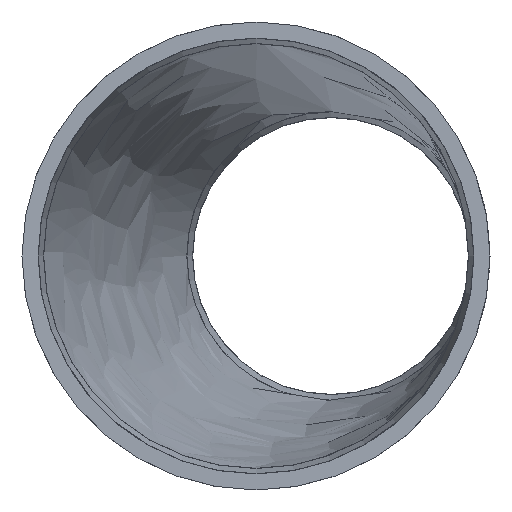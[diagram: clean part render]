
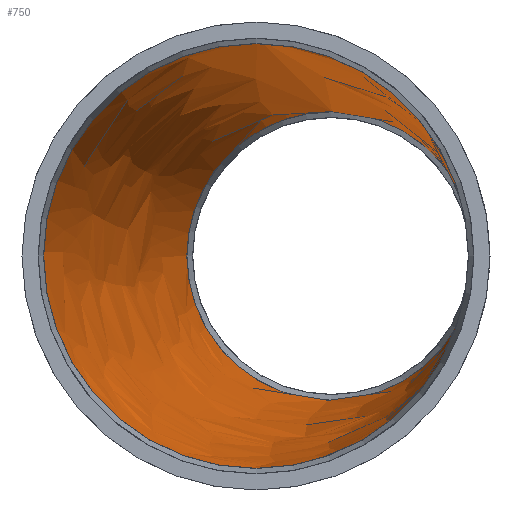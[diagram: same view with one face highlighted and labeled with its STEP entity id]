
A CAD part, left-side view. The second image highlights one B-rep face of the part: STEP entity #750.
In plain terms, the highlighted free-form (B-spline) face has degree [1, 2] with [2, 9] control points.
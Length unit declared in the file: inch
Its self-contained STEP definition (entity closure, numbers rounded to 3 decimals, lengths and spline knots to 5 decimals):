
#57=B_SPLINE_CURVE_WITH_KNOTS('',1,(#1385,#1386),.UNSPECIFIED.,.F.,.F.,
(2,2),(0.0005,4.30957),.UNSPECIFIED.);
#59=(
BOUNDED_SURFACE()
B_SPLINE_SURFACE(1,2,((#1367,#1368,#1369,#1370,#1371,#1372,#1373,#1374,
#1375),(#1376,#1377,#1378,#1379,#1380,#1381,#1382,#1383,#1384)),
 .UNSPECIFIED.,.F.,.T.,.F.)
B_SPLINE_SURFACE_WITH_KNOTS((2,2),(3,2,2,2,3),(-0.08352,4.36268),
(-3.14159,-1.5708,0.,1.5708,3.14159),
 .UNSPECIFIED.)
GEOMETRIC_REPRESENTATION_ITEM()
RATIONAL_B_SPLINE_SURFACE(((1.,0.707,1.,0.707,1.,
0.707,1.,0.707,1.),(1.,0.707,1.,0.707,
1.,0.707,1.,0.707,1.)))
REPRESENTATION_ITEM('')
SURFACE()
);
#127=FACE_OUTER_BOUND('',#159,.T.);
#159=EDGE_LOOP('',(#612,#613,#614,#615,#616,#617,#618,#619,#620,#621));
#209=CIRCLE('',#823,1.63);
#210=CIRCLE('',#824,1.63);
#211=CIRCLE('',#825,1.63);
#212=CIRCLE('',#826,1.63);
#223=CIRCLE('',#840,1.08);
#224=CIRCLE('',#841,1.08);
#225=CIRCLE('',#842,1.08);
#226=CIRCLE('',#843,1.08);
#298=VERTEX_POINT('',#1280);
#299=VERTEX_POINT('',#1281);
#300=VERTEX_POINT('',#1283);
#301=VERTEX_POINT('',#1285);
#311=VERTEX_POINT('',#1312);
#312=VERTEX_POINT('',#1313);
#313=VERTEX_POINT('',#1315);
#314=VERTEX_POINT('',#1317);
#391=EDGE_CURVE('',#298,#299,#209,.T.);
#392=EDGE_CURVE('',#299,#300,#210,.T.);
#393=EDGE_CURVE('',#300,#301,#211,.T.);
#395=EDGE_CURVE('',#301,#298,#212,.T.);
#407=EDGE_CURVE('',#311,#312,#223,.T.);
#408=EDGE_CURVE('',#312,#313,#224,.T.);
#409=EDGE_CURVE('',#313,#314,#225,.T.);
#411=EDGE_CURVE('',#314,#311,#226,.T.);
#435=EDGE_CURVE('',#299,#313,#57,.T.);
#612=ORIENTED_EDGE('',*,*,#391,.F.);
#613=ORIENTED_EDGE('',*,*,#395,.F.);
#614=ORIENTED_EDGE('',*,*,#393,.F.);
#615=ORIENTED_EDGE('',*,*,#392,.F.);
#616=ORIENTED_EDGE('',*,*,#435,.T.);
#617=ORIENTED_EDGE('',*,*,#408,.F.);
#618=ORIENTED_EDGE('',*,*,#407,.F.);
#619=ORIENTED_EDGE('',*,*,#411,.F.);
#620=ORIENTED_EDGE('',*,*,#409,.F.);
#621=ORIENTED_EDGE('',*,*,#435,.F.);
#750=ADVANCED_FACE('',(#127),#59,.T.);
#823=AXIS2_PLACEMENT_3D('',#1282,#1004,#1005);
#824=AXIS2_PLACEMENT_3D('',#1284,#1006,#1007);
#825=AXIS2_PLACEMENT_3D('',#1286,#1008,#1009);
#826=AXIS2_PLACEMENT_3D('',#1288,#1011,#1012);
#840=AXIS2_PLACEMENT_3D('',#1314,#1040,#1041);
#841=AXIS2_PLACEMENT_3D('',#1316,#1042,#1043);
#842=AXIS2_PLACEMENT_3D('',#1318,#1044,#1045);
#843=AXIS2_PLACEMENT_3D('',#1320,#1047,#1048);
#1004=DIRECTION('center_axis',(1.,0.,0.));
#1005=DIRECTION('ref_axis',(0.,1.,0.));
#1006=DIRECTION('center_axis',(1.,0.,0.));
#1007=DIRECTION('ref_axis',(0.,1.,0.));
#1008=DIRECTION('center_axis',(1.,0.,0.));
#1009=DIRECTION('ref_axis',(0.,1.,0.));
#1011=DIRECTION('center_axis',(1.,0.,0.));
#1012=DIRECTION('ref_axis',(0.,1.,0.));
#1040=DIRECTION('center_axis',(-1.,0.,0.));
#1041=DIRECTION('ref_axis',(0.,-1.,0.));
#1042=DIRECTION('center_axis',(-1.,0.,0.));
#1043=DIRECTION('ref_axis',(0.,-1.,0.));
#1044=DIRECTION('center_axis',(-1.,0.,0.));
#1045=DIRECTION('ref_axis',(0.,-1.,0.));
#1047=DIRECTION('center_axis',(-1.,0.,0.));
#1048=DIRECTION('ref_axis',(0.,-1.,0.));
#1280=CARTESIAN_POINT('',(1.26,-1.59378,-0.34172));
#1281=CARTESIAN_POINT('',(1.26,-0.01022,1.62997));
#1282=CARTESIAN_POINT('Origin',(1.26,0.,0.));
#1283=CARTESIAN_POINT('',(1.26,-1.59378,0.34172));
#1284=CARTESIAN_POINT('Origin',(1.26,0.,0.));
#1285=CARTESIAN_POINT('',(1.26,-1.63,0.));
#1286=CARTESIAN_POINT('Origin',(1.26,0.,0.));
#1288=CARTESIAN_POINT('Origin',(1.26,0.,0.));
#1312=CARTESIAN_POINT('',(8.24,-1.6185,-0.22642));
#1313=CARTESIAN_POINT('',(8.24,-1.6185,0.22642));
#1314=CARTESIAN_POINT('Origin',(8.24,-0.5625,0.));
#1315=CARTESIAN_POINT('',(8.24,-0.56927,1.07998));
#1316=CARTESIAN_POINT('Origin',(8.24,-0.5625,0.));
#1317=CARTESIAN_POINT('',(8.24,0.5175,0.));
#1318=CARTESIAN_POINT('Origin',(8.24,-0.5625,0.));
#1320=CARTESIAN_POINT('Origin',(8.24,-0.5625,0.));
#1367=CARTESIAN_POINT('Ctrl Pts',(1.12389,0.00068,
1.64069));
#1368=CARTESIAN_POINT('Ctrl Pts',(0.99333,-1.62952,1.64069));
#1369=CARTESIAN_POINT('Ctrl Pts',(0.99333,-1.62952,0.));
#1370=CARTESIAN_POINT('Ctrl Pts',(0.99333,-1.62952,-1.64069));
#1371=CARTESIAN_POINT('Ctrl Pts',(1.12389,0.00068,
-1.64069));
#1372=CARTESIAN_POINT('Ctrl Pts',(1.25446,1.63088,-1.64069));
#1373=CARTESIAN_POINT('Ctrl Pts',(1.25446,1.63088,0.));
#1374=CARTESIAN_POINT('Ctrl Pts',(1.25446,1.63088,1.64069));
#1375=CARTESIAN_POINT('Ctrl Pts',(1.12389,0.00068,
1.64069));
#1376=CARTESIAN_POINT('Ctrl Pts',(8.32604,-0.57616,1.0732));
#1377=CARTESIAN_POINT('Ctrl Pts',(8.24063,-1.6425,1.0732));
#1378=CARTESIAN_POINT('Ctrl Pts',(8.24063,-1.6425,0.));
#1379=CARTESIAN_POINT('Ctrl Pts',(8.24063,-1.6425,-1.0732));
#1380=CARTESIAN_POINT('Ctrl Pts',(8.32604,-0.57616,-1.0732));
#1381=CARTESIAN_POINT('Ctrl Pts',(8.41144,0.49017,-1.0732));
#1382=CARTESIAN_POINT('Ctrl Pts',(8.41144,0.49017,0.));
#1383=CARTESIAN_POINT('Ctrl Pts',(8.41144,0.49017,1.0732));
#1384=CARTESIAN_POINT('Ctrl Pts',(8.32604,-0.57616,1.0732));
#1385=CARTESIAN_POINT('Ctrl Pts',(1.26,-0.01022,
1.62997));
#1386=CARTESIAN_POINT('Ctrl Pts',(8.24,-0.56927,1.07998));
